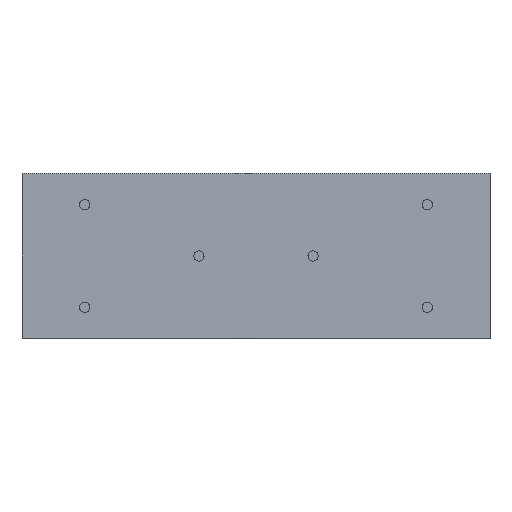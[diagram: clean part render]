
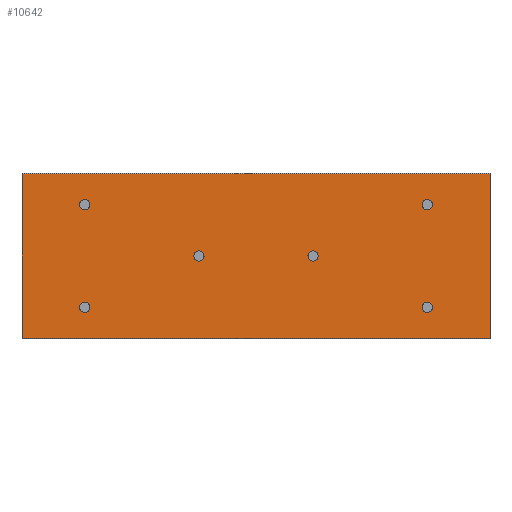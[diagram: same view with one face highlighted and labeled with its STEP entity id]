
A CAD part, front view. The second image highlights one B-rep face of the part: STEP entity #10642.
In plain terms, the highlighted planar face has unit normal (0, -1, 0).
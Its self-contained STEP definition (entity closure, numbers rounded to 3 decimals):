
#352=CIRCLE('',#11272,4.5);
#353=CIRCLE('',#11273,4.5);
#354=CIRCLE('',#11274,4.5);
#355=CIRCLE('',#11275,4.5);
#356=CIRCLE('',#11276,4.5);
#357=CIRCLE('',#11277,4.5);
#1080=ORIENTED_EDGE('',*,*,#4345,.F.);
#1081=ORIENTED_EDGE('',*,*,#4346,.F.);
#1082=ORIENTED_EDGE('',*,*,#4347,.T.);
#1083=ORIENTED_EDGE('',*,*,#4348,.F.);
#1084=ORIENTED_EDGE('',*,*,#4349,.F.);
#1085=ORIENTED_EDGE('',*,*,#4350,.F.);
#1086=ORIENTED_EDGE('',*,*,#4299,.T.);
#1087=ORIENTED_EDGE('',*,*,#4351,.F.);
#1088=ORIENTED_EDGE('',*,*,#4352,.F.);
#1089=ORIENTED_EDGE('',*,*,#4343,.T.);
#4299=EDGE_CURVE('',#5938,#5937,#7031,.T.);
#4343=EDGE_CURVE('',#5972,#5938,#7075,.T.);
#4345=EDGE_CURVE('',#5973,#5973,#352,.T.);
#4346=EDGE_CURVE('',#5974,#5974,#353,.T.);
#4347=EDGE_CURVE('',#5975,#5975,#354,.T.);
#4348=EDGE_CURVE('',#5976,#5976,#355,.T.);
#4349=EDGE_CURVE('',#5977,#5977,#356,.T.);
#4350=EDGE_CURVE('',#5978,#5978,#357,.T.);
#4351=EDGE_CURVE('',#5979,#5937,#7077,.T.);
#4352=EDGE_CURVE('',#5972,#5979,#7078,.T.);
#5937=VERTEX_POINT('',#16062);
#5938=VERTEX_POINT('',#16064);
#5972=VERTEX_POINT('',#16149);
#5973=VERTEX_POINT('',#16153);
#5974=VERTEX_POINT('',#16155);
#5975=VERTEX_POINT('',#16157);
#5976=VERTEX_POINT('',#16159);
#5977=VERTEX_POINT('',#16161);
#5978=VERTEX_POINT('',#16163);
#5979=VERTEX_POINT('',#16165);
#7031=LINE('',#16063,#8027);
#7075=LINE('',#16148,#8071);
#7077=LINE('',#16164,#8073);
#7078=LINE('',#16166,#8074);
#8027=VECTOR('',#12546,1000.);
#8071=VECTOR('',#12604,1000.);
#8073=VECTOR('',#12620,1000.);
#8074=VECTOR('',#12621,1000.);
#9005=EDGE_LOOP('',(#1080));
#9006=EDGE_LOOP('',(#1081));
#9007=EDGE_LOOP('',(#1082));
#9008=EDGE_LOOP('',(#1083));
#9009=EDGE_LOOP('',(#1084));
#9010=EDGE_LOOP('',(#1085));
#9011=EDGE_LOOP('',(#1086,#1087,#1088,#1089));
#9683=FACE_BOUND('',#9005,.T.);
#9684=FACE_BOUND('',#9006,.T.);
#9685=FACE_BOUND('',#9007,.T.);
#9686=FACE_BOUND('',#9008,.T.);
#9687=FACE_BOUND('',#9009,.T.);
#9688=FACE_BOUND('',#9010,.T.);
#9689=FACE_BOUND('',#9011,.T.);
#10361=PLANE('',#11271);
#10642=ADVANCED_FACE('',(#9683,#9684,#9685,#9686,#9687,#9688,#9689),#10361,
 .F.);
#11271=AXIS2_PLACEMENT_3D('',#16151,#12606,#12607);
#11272=AXIS2_PLACEMENT_3D('',#16152,#12608,#12609);
#11273=AXIS2_PLACEMENT_3D('',#16154,#12610,#12611);
#11274=AXIS2_PLACEMENT_3D('',#16156,#12612,#12613);
#11275=AXIS2_PLACEMENT_3D('',#16158,#12614,#12615);
#11276=AXIS2_PLACEMENT_3D('',#16160,#12616,#12617);
#11277=AXIS2_PLACEMENT_3D('',#16162,#12618,#12619);
#12546=DIRECTION('',(0.,0.,-1.));
#12604=DIRECTION('',(-1.,0.,0.));
#12606=DIRECTION('',(0.,1.,0.));
#12607=DIRECTION('',(0.,0.,1.));
#12608=DIRECTION('',(0.,-1.,0.));
#12609=DIRECTION('',(0.,0.,-1.));
#12610=DIRECTION('',(0.,-1.,0.));
#12611=DIRECTION('',(0.,0.,-1.));
#12612=DIRECTION('',(0.,1.,0.));
#12613=DIRECTION('',(0.,0.,1.));
#12614=DIRECTION('',(0.,-1.,0.));
#12615=DIRECTION('',(0.,0.,-1.));
#12616=DIRECTION('',(0.,-1.,0.));
#12617=DIRECTION('',(0.,0.,-1.));
#12618=DIRECTION('',(0.,-1.,0.));
#12619=DIRECTION('',(0.,0.,-1.));
#12620=DIRECTION('',(-1.,0.,0.));
#12621=DIRECTION('',(0.,0.,-1.));
#16062=CARTESIAN_POINT('',(0.,0.,-72.2));
#16063=CARTESIAN_POINT('',(0.,0.,72.2));
#16064=CARTESIAN_POINT('',(0.,0.,72.2));
#16148=CARTESIAN_POINT('',(410.,0.,72.2));
#16149=CARTESIAN_POINT('',(410.,0.,72.2));
#16151=CARTESIAN_POINT('',(410.,0.,72.2));
#16152=CARTESIAN_POINT('',(255.,0.,0.));
#16153=CARTESIAN_POINT('',(255.,0.,-4.5));
#16154=CARTESIAN_POINT('',(155.,0.,0.));
#16155=CARTESIAN_POINT('',(155.,0.,-4.5));
#16156=CARTESIAN_POINT('',(355.,0.,45.));
#16157=CARTESIAN_POINT('',(355.,0.,49.5));
#16158=CARTESIAN_POINT('',(355.,0.,-45.));
#16159=CARTESIAN_POINT('',(355.,0.,-49.5));
#16160=CARTESIAN_POINT('',(55.,0.,-45.));
#16161=CARTESIAN_POINT('',(55.,0.,-49.5));
#16162=CARTESIAN_POINT('',(55.,0.,45.));
#16163=CARTESIAN_POINT('',(55.,0.,40.5));
#16164=CARTESIAN_POINT('',(410.,0.,-72.2));
#16165=CARTESIAN_POINT('',(410.,0.,-72.2));
#16166=CARTESIAN_POINT('',(410.,0.,72.2));
